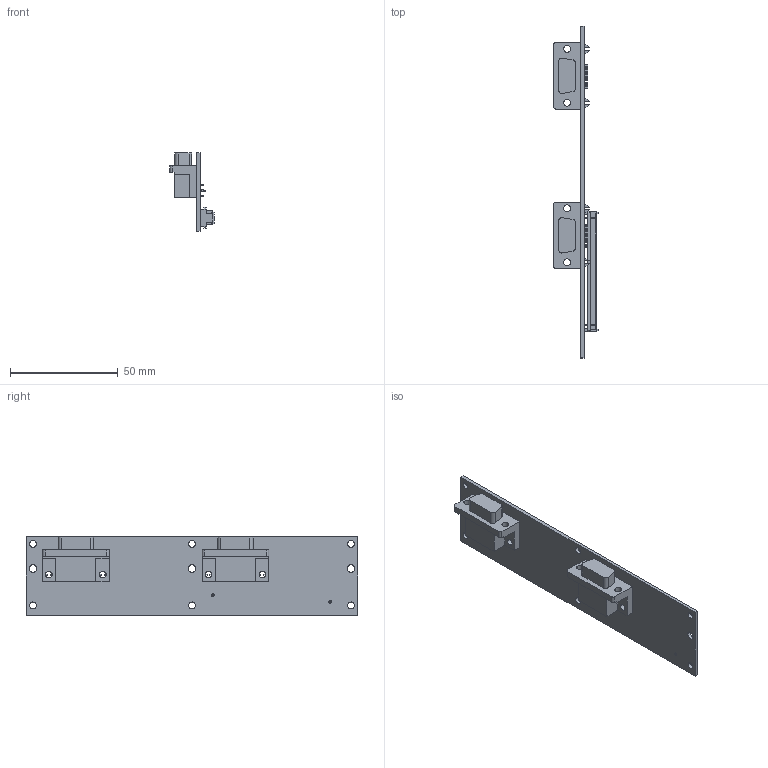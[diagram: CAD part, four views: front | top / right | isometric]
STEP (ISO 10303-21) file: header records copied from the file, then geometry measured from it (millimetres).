
FILE_DESCRIPTION((''),'2;1');
FILE_NAME('CU_NI-9693','2012-11-30T',('jbuhisan'),(''),'PRO/ENGINEER BY PARAMETRIC TECHNOLOGY CORPORATION, 2011490','PRO/ENGINEER BY PARAMETRIC TECHNOLOGY CORPORATION, 2011490','');
FILE_SCHEMA(('CONFIG_CONTROL_DESIGN'));
Length unit declared in the file: inch
Products named in the file (1): CU_NI-9693
Bounding box: 20.73 x 153.67 x 36.2 mm (x, y, z)
Volume: 19168.4 mm3; surface area: 17360.2 mm2
Topology: 9 solids, 9 shells, 799 faces, 2055 edges, 1338 vertices
Faces by surface type: plane 609, cylinder 184, bspline 4, sphere 2
Entity records: 24459 total; most frequent: CARTESIAN_POINT 4538, ORIENTED_EDGE 4106, DIRECTION 4011, EDGE_CURVE 2053, VECTOR 1673, LINE 1673, VERTEX_POINT 1338, AXIS2_PLACEMENT_3D 1169
